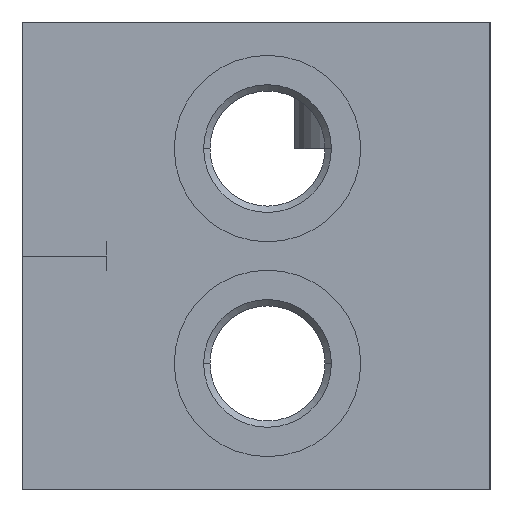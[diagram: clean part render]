
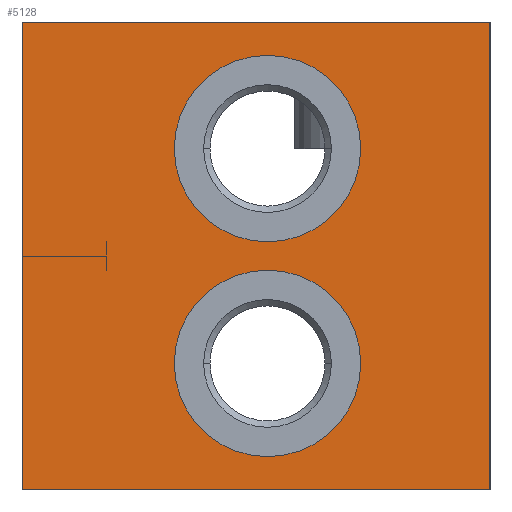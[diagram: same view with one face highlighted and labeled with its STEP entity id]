
A CAD part, left-side view. The second image highlights one B-rep face of the part: STEP entity #5128.
In plain terms, the highlighted planar face has unit normal (-1, 0, 0).
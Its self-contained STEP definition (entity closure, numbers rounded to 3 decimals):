
#25=DIRECTION('',(0.,-1.,0.));
#26=VECTOR('',#25,61.);
#27=CARTESIAN_POINT('',(0.,61.,0.));
#28=LINE('',#27,#26);
#137=DIRECTION('',(0.,0.,-1.));
#138=VECTOR('',#137,61.);
#139=CARTESIAN_POINT('',(0.,0.,0.));
#140=LINE('',#139,#138);
#939=DIRECTION('',(0.,0.,-1.));
#940=VECTOR('',#939,61.);
#941=CARTESIAN_POINT('',(0.,61.,0.));
#942=LINE('',#941,#940);
#943=CARTESIAN_POINT('',(0.,29.,-44.5));
#944=DIRECTION('',(1.,0.,0.));
#945=DIRECTION('',(0.,-1.,0.));
#946=AXIS2_PLACEMENT_3D('',#943,#944,#945);
#948=CARTESIAN_POINT('',(0.,29.,-44.5));
#949=DIRECTION('',(1.,0.,0.));
#950=DIRECTION('',(0.,1.,0.));
#951=AXIS2_PLACEMENT_3D('',#948,#949,#950);
#953=CARTESIAN_POINT('',(0.,29.,-16.5));
#954=DIRECTION('',(1.,0.,0.));
#955=DIRECTION('',(0.,-1.,0.));
#956=AXIS2_PLACEMENT_3D('',#953,#954,#955);
#958=CARTESIAN_POINT('',(0.,29.,-16.5));
#959=DIRECTION('',(1.,0.,0.));
#960=DIRECTION('',(0.,1.,0.));
#961=AXIS2_PLACEMENT_3D('',#958,#959,#960);
#975=DIRECTION('',(0.,-1.,0.));
#976=VECTOR('',#975,61.);
#977=CARTESIAN_POINT('',(0.,61.,-61.));
#978=LINE('',#977,#976);
#3957=CARTESIAN_POINT('',(0.,0.,0.));
#3959=VERTEX_POINT('',#3957);
#3963=CARTESIAN_POINT('',(0.,61.,0.));
#3964=VERTEX_POINT('',#3963);
#3965=CARTESIAN_POINT('',(0.,0.,-61.));
#3967=VERTEX_POINT('',#3965);
#3971=CARTESIAN_POINT('',(0.,61.,-61.));
#3972=VERTEX_POINT('',#3971);
#3985=CARTESIAN_POINT('',(0.,16.85,-44.5));
#3986=CARTESIAN_POINT('',(0.,41.15,-44.5));
#3987=VERTEX_POINT('',#3985);
#3988=VERTEX_POINT('',#3986);
#4001=CARTESIAN_POINT('',(0.,16.85,-16.5));
#4002=CARTESIAN_POINT('',(0.,41.15,-16.5));
#4003=VERTEX_POINT('',#4001);
#4004=VERTEX_POINT('',#4002);
#5104=CARTESIAN_POINT('',(0.,61.,0.));
#5105=DIRECTION('',(-1.,0.,0.));
#5106=DIRECTION('',(0.,-1.,0.));
#5107=AXIS2_PLACEMENT_3D('',#5104,#5105,#5106);
#5108=PLANE('',#5107);
#5109=ORIENTED_EDGE('',*,*,#4734,.T.);
#5110=ORIENTED_EDGE('',*,*,#4813,.T.);
#5112=ORIENTED_EDGE('',*,*,#5111,.F.);
#5113=ORIENTED_EDGE('',*,*,#4892,.F.);
#5114=EDGE_LOOP('',(#5109,#5110,#5112,#5113));
#5115=FACE_OUTER_BOUND('',#5114,.F.);
#5117=ORIENTED_EDGE('',*,*,#5116,.F.);
#5119=ORIENTED_EDGE('',*,*,#5118,.F.);
#5120=EDGE_LOOP('',(#5117,#5119));
#5121=FACE_BOUND('',#5120,.F.);
#5123=ORIENTED_EDGE('',*,*,#5122,.F.);
#5125=ORIENTED_EDGE('',*,*,#5124,.F.);
#5126=EDGE_LOOP('',(#5123,#5125));
#5127=FACE_BOUND('',#5126,.F.);
#947=CIRCLE('',#946,12.15);
#952=CIRCLE('',#951,12.15);
#957=CIRCLE('',#956,12.15);
#962=CIRCLE('',#961,12.15);
#4734=EDGE_CURVE('',#3964,#3959,#28,.T.);
#4813=EDGE_CURVE('',#3959,#3967,#140,.T.);
#4892=EDGE_CURVE('',#3964,#3972,#942,.T.);
#5111=EDGE_CURVE('',#3972,#3967,#978,.T.);
#5116=EDGE_CURVE('',#3987,#3988,#947,.T.);
#5118=EDGE_CURVE('',#3988,#3987,#952,.T.);
#5122=EDGE_CURVE('',#4003,#4004,#957,.T.);
#5124=EDGE_CURVE('',#4004,#4003,#962,.T.);
#5128=ADVANCED_FACE('',(#5115,#5121,#5127),#5108,.T.);
